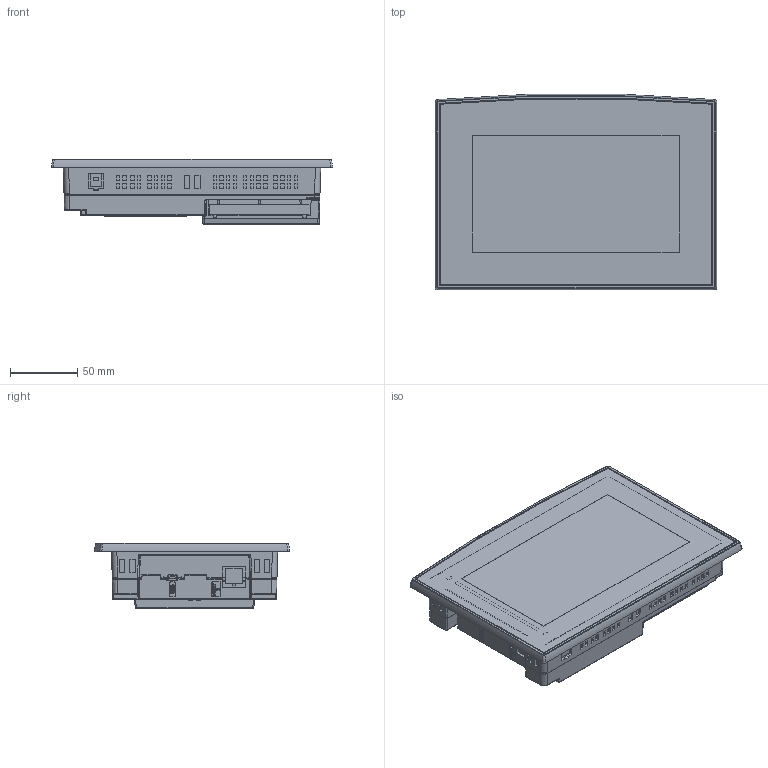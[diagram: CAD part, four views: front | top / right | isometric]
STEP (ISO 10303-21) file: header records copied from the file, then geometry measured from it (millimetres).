
FILE_DESCRIPTION (( 'STEP AP214' ), '1' );
FILE_NAME ('SM70.STEP', '2024-04-18T10:31:22', ( '' ), ( '' ), 'SwSTEP 2.0', 'SolidWorks 2022', '' );
FILE_SCHEMA (( 'AUTOMOTIVE_DESIGN' ));
Length unit declared in the file: millimetre
Products named in the file (1): SM70
Bounding box: 209.98 x 145.86 x 48.9 mm (x, y, z)
Volume: 974248.5 mm3; surface area: 124075.6 mm2
Topology: 1 solids, 22 shells, 3388 faces, 9152 edges, 6005 vertices
Faces by surface type: plane 1943, cylinder 691, bspline 434, cone 267, torus 29, sphere 24
Entity records: 123247 total; most frequent: CARTESIAN_POINT 43494, ORIENTED_EDGE 18280, DIRECTION 14092, EDGE_CURVE 9140, VERTEX_POINT 6005, VECTOR 5884, LINE 5884, AXIS2_PLACEMENT_3D 4104
